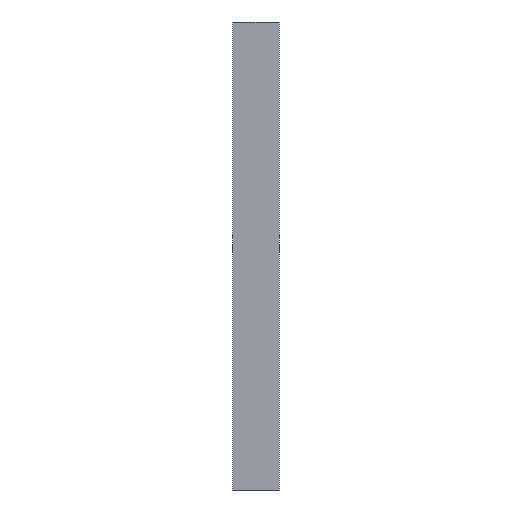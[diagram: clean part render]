
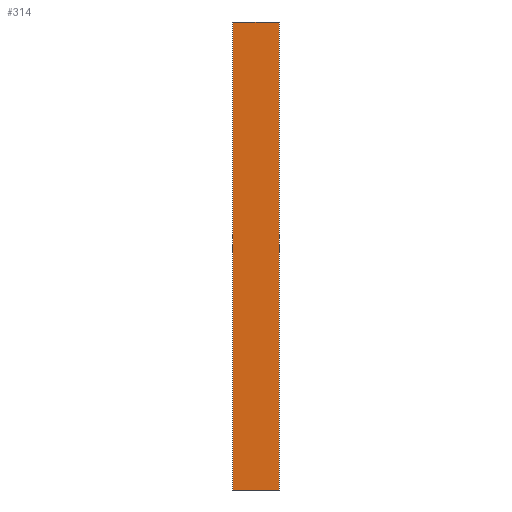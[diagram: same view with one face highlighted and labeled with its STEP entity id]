
A CAD part, front view. The second image highlights one B-rep face of the part: STEP entity #314.
In plain terms, the highlighted planar face has unit normal (0, -1, 0).
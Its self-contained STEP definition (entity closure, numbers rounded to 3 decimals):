
#4 = DIRECTION ( 'NONE',  ( 0., 0., -1. ) ) ;
#17 = CARTESIAN_POINT ( 'NONE',  ( 25., -12.5, 0. ) ) ;
#20 = VERTEX_POINT ( 'NONE', #240 ) ;
#30 = LINE ( 'NONE', #415, #394 ) ;
#31 = VECTOR ( 'NONE', #122, 1000. ) ;
#32 = ORIENTED_EDGE ( 'NONE', *, *, #120, .F. ) ;
#44 = CARTESIAN_POINT ( 'NONE',  ( -25., -12.5, 500. ) ) ;
#62 = EDGE_CURVE ( 'NONE', #308, #420, #30, .T. ) ;
#80 = VERTEX_POINT ( 'NONE', #17 ) ;
#104 = CARTESIAN_POINT ( 'NONE',  ( -25., -12.5, 500. ) ) ;
#109 = ORIENTED_EDGE ( 'NONE', *, *, #448, .T. ) ;
#118 = FACE_OUTER_BOUND ( 'NONE', #243, .T. ) ;
#120 = EDGE_CURVE ( 'NONE', #420, #80, #286, .T. ) ;
#122 = DIRECTION ( 'NONE',  ( 0., 0., -1. ) ) ;
#139 = CARTESIAN_POINT ( 'NONE',  ( -25., -12.5, 0. ) ) ;
#140 = DIRECTION ( 'NONE',  ( 0., 0., 1. ) ) ;
#149 = DIRECTION ( 'NONE',  ( 1., 0., 0. ) ) ;
#169 = DIRECTION ( 'NONE',  ( 1., 0., 0. ) ) ;
#171 = ORIENTED_EDGE ( 'NONE', *, *, #234, .T. ) ;
#179 = AXIS2_PLACEMENT_3D ( 'NONE', #104, #333, #140 ) ;
#215 = CARTESIAN_POINT ( 'NONE',  ( -25., -12.5, 500. ) ) ;
#234 = EDGE_CURVE ( 'NONE', #308, #20, #406, .T. ) ;
#240 = CARTESIAN_POINT ( 'NONE',  ( -25., -12.5, 0. ) ) ;
#243 = EDGE_LOOP ( 'NONE', ( #109, #32, #265, #171 ) ) ;
#265 = ORIENTED_EDGE ( 'NONE', *, *, #62, .F. ) ;
#286 = LINE ( 'NONE', #421, #31 ) ;
#303 = PLANE ( 'NONE',  #179 ) ;
#308 = VERTEX_POINT ( 'NONE', #215 ) ;
#314 = ADVANCED_FACE ( 'NONE', ( #118 ), #303, .F. ) ;
#331 = VECTOR ( 'NONE', #169, 1000. ) ;
#333 = DIRECTION ( 'NONE',  ( 0., 1., 0. ) ) ;
#360 = CARTESIAN_POINT ( 'NONE',  ( 25., -12.5, 500. ) ) ;
#394 = VECTOR ( 'NONE', #149, 1000. ) ;
#399 = VECTOR ( 'NONE', #4, 1000. ) ;
#406 = LINE ( 'NONE', #44, #399 ) ;
#415 = CARTESIAN_POINT ( 'NONE',  ( -25., -12.5, 500. ) ) ;
#420 = VERTEX_POINT ( 'NONE', #360 ) ;
#421 = CARTESIAN_POINT ( 'NONE',  ( 25., -12.5, 500. ) ) ;
#430 = LINE ( 'NONE', #139, #331 ) ;
#448 = EDGE_CURVE ( 'NONE', #20, #80, #430, .T. ) ;
